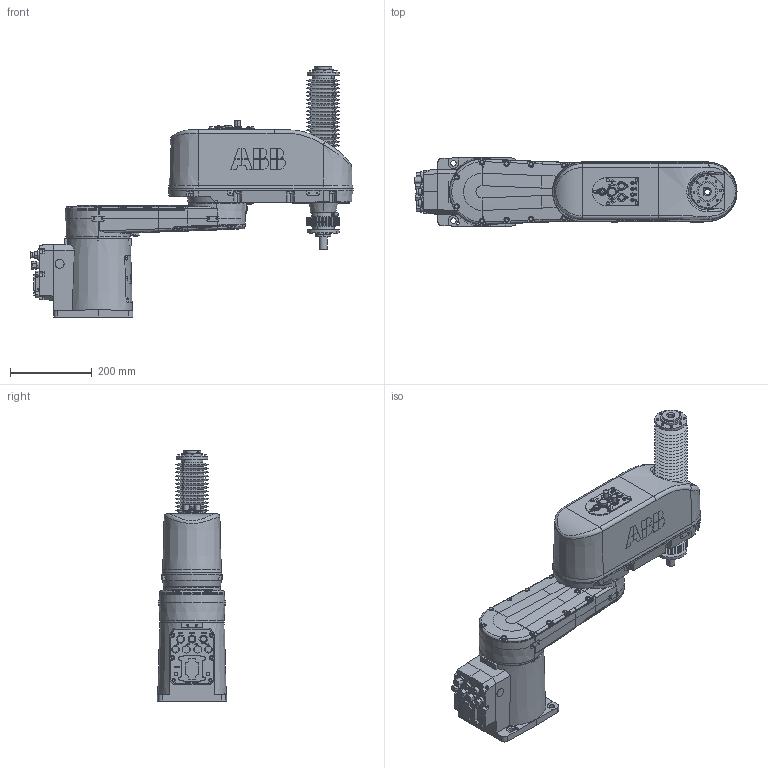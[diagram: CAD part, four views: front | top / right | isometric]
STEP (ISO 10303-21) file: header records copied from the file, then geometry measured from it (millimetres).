
FILE_DESCRIPTION (( 'STEP AP214' ), '1' );
FILE_NAME ('IRB920_6kg-550-145-IP54-STD_OmniCore_rev00_Assembly.STEP', '2022-06-20T05:24:38', ( '' ), ( '' ), 'SwSTEP 2.0', 'SolidWorks 2020', '' );
FILE_SCHEMA (( 'AUTOMOTIVE_DESIGN' ));
Length unit declared in the file: millimetre
Products named in the file (5): IRB920_6kg-550-145-IP54-STD_OmniCore_rev00_LINK1_CAD; IRB920_6kg-550-145-IP54-STD_OmniCore_rev00_LINK0_CAD; IRB920_6kg-550-145-IP54-STD_OmniCore_rev00_LINK3_CAD; IRB920_6kg-550-145-IP54-STD_OmniCore_rev00_Assembly; IRB920_6kg-550-145-IP54-STD_OmniCore_rev00_LINK2_CAD
Assembly tree (4 placements, depth 2):
  IRB920_6kg-550-145-IP54-STD_OmniCore_rev00_Assembly
    IRB920_6kg-550-145-IP54-STD_OmniCore_rev00_LINK0_CAD
    IRB920_6kg-550-145-IP54-STD_OmniCore_rev00_LINK1_CAD
    IRB920_6kg-550-145-IP54-STD_OmniCore_rev00_LINK2_CAD
    IRB920_6kg-550-145-IP54-STD_OmniCore_rev00_LINK3_CAD
Bounding box: 787 x 170 x 610.8 mm (x, y, z)
Volume: 19855107.8 mm3; surface area: 1027818.9 mm2
Topology: 4 solids, 4 shells, 2473 faces, 6246 edges, 4011 vertices
Faces by surface type: plane 1250, cylinder 442, bspline 388, cone 378, torus 14, sphere 1
Entity records: 99081 total; most frequent: CARTESIAN_POINT 40777, ORIENTED_EDGE 12340, DIRECTION 10116, EDGE_CURVE 6170, VERTEX_POINT 4009, VECTOR 3612, LINE 3612, AXIS2_PLACEMENT_3D 3252
